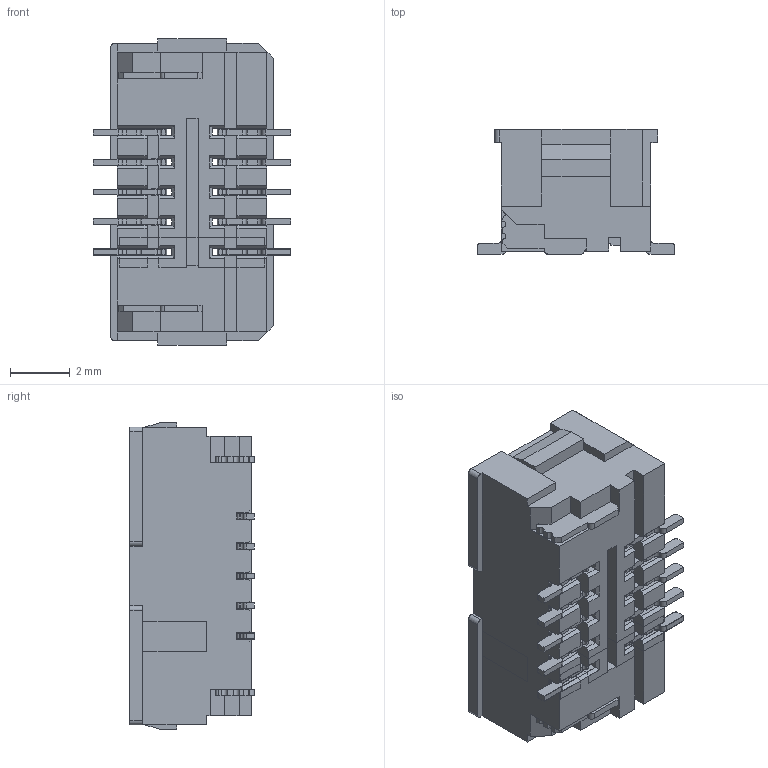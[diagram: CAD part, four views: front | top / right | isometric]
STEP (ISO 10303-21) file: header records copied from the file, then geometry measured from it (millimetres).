
FILE_DESCRIPTION(/* description */ (''),/* implementation_level */ '2;1');
FILE_NAME(/* name */ 'HC-SH25-2x5PLT-05 (1.00 双排 带扣 立贴-HCTL).stp',/* time_stamp */ '2026-10-21T09:18:00+08:00',/* author */ (''),/* organization */ (''),/* preprocessor_version */ 'ST-DEVELOPER v16',/* originating_system */ 'SIEMENS PLM Software NX 10.0',/* authorisation */ '');
FILE_SCHEMA (('AUTOMOTIVE_DESIGN { 1 0 10303 214 3 1 1 1 }'));
Length unit declared in the file: millimetre
Products named in the file (1): HC-SH25-2x10PLT-05 (1.00  双排 带扣 
立贴-HCTL)
Bounding box: 6.6 x 4.17 x 10.25 mm (x, y, z)
Volume: 138.8 mm3; surface area: 647.9 mm2
Topology: 2 solids, 4 shells, 1146 faces, 3492 edges, 2295 vertices
Faces by surface type: plane 873, cylinder 273
Entity records: 38857 total; most frequent: ORIENTED_EDGE 6984, CARTESIAN_POINT 6979, DIRECTION 6326, EDGE_CURVE 3492, LINE 2922, VECTOR 2922, VERTEX_POINT 2295, AXIS2_PLACEMENT_3D 1702
